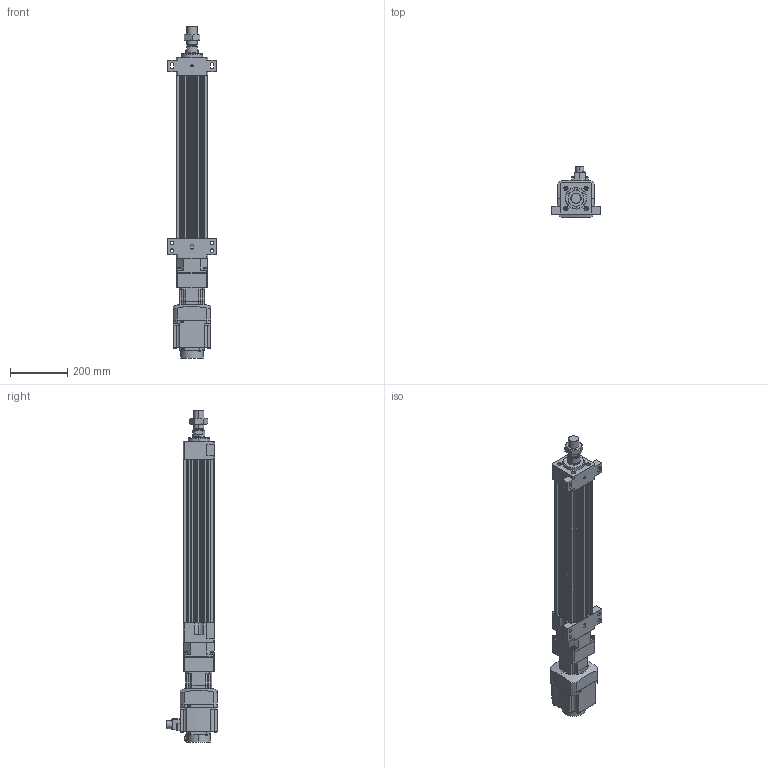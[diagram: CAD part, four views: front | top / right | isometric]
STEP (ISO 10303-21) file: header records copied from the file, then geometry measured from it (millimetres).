
FILE_DESCRIPTION (( 'STEP AP203' ), '1' );
FILE_NAME ('HES110NS(HS)-S400-W010G00-M-FFB.STEP', '2023-01-27T05:43:03', ( 'tms' ), ( '' ), 'SwSTEP 2.0', 'SolidWorks 2013', '' );
FILE_SCHEMA (( 'CONFIG_CONTROL_DESIGN' ));
Length unit declared in the file: millimetre
Products named in the file (8): AB0901; HES110 ROD M ST400; HG-SR102; AB090-003[HG-SR102B]; HES110NS(HS)-S400-W010G00-M-FFB; HES110-S400-G090-FFB; M36X1.5P; P0401301004
Assembly tree (7 placements, depth 3):
  HES110NS(HS)-S400-W010G00-M-FFB
    HES110-S400-G090-FFB
    HES110 ROD M ST400
    M36X1.5P
    AB090-003[HG-SR102B]
      AB0901
      P0401301004
    HG-SR102
Bounding box: 170 x 177.49 x 1158.5 mm (x, y, z)
Volume: 7560302.9 mm3; surface area: 1024985.1 mm2
Topology: 4 solids, 15 shells, 1189 faces, 3015 edges, 1964 vertices
Faces by surface type: plane 570, cylinder 529, cone 78, bspline 8, torus 4
Entity records: 37852 total; most frequent: CARTESIAN_POINT 7358, DIRECTION 6498, ORIENTED_EDGE 5982, EDGE_CURVE 3001, AXIS2_PLACEMENT_3D 2375, VERTEX_POINT 1964, LINE 1748, VECTOR 1748
